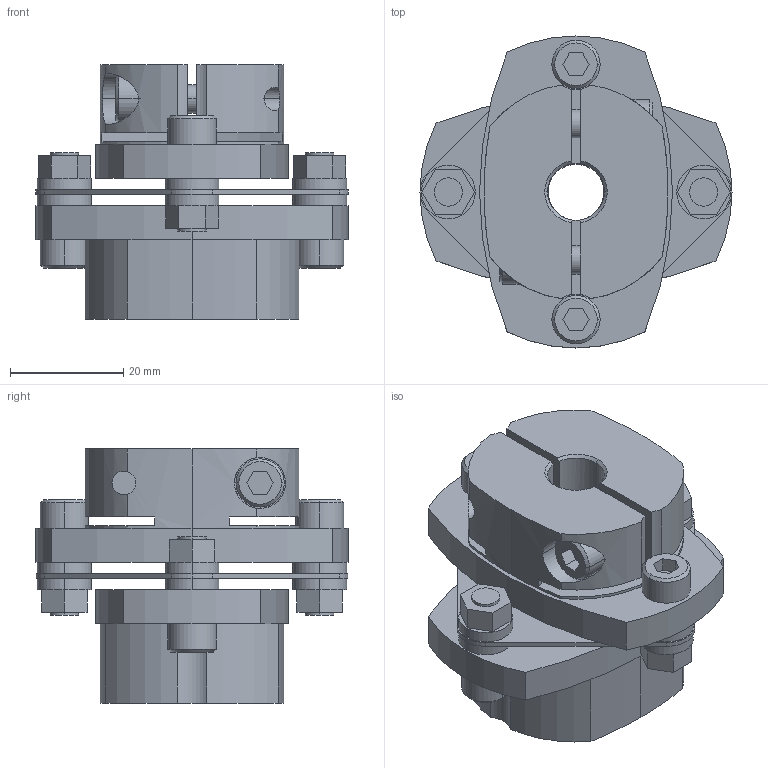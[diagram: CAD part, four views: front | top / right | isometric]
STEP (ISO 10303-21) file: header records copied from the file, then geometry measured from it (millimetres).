
FILE_DESCRIPTION((''),'2;1');
FILE_NAME('LCS-55M-11L亊10B.stp','2011-08-20T15:31:25',(''),(''),'AutoCAD STEP 2000i','AutoCAD 2000i',', , ');
FILE_SCHEMA(('CONFIG_CONTROL_DESIGN'));
Length unit declared in the file: millimetre
Products named in the file (6): LCS-55M-11L×10B; 忣兜1; LC55M-L011; LC55-B010-1; LC55-B010; LCS55-ITA
Assembly tree (6 placements, depth 2):
  LCS-55M-11L×10B
    忣兜1
    LC55M-L011  x2
    LC55-B010-1
    LC55-B010
    LCS55-ITA
Bounding box: 55 x 55 x 44.8 mm (x, y, z)
Volume: 46609.8 mm3; surface area: 19299 mm2
Topology: 1 solids, 1 shells, 240 faces, 608 edges, 400 vertices
Faces by surface type: plane 115, cylinder 104, cone 21
Entity records: 7727 total; most frequent: CARTESIAN_POINT 1547, DIRECTION 1320, ORIENTED_EDGE 1216, EDGE_CURVE 608, AXIS2_PLACEMENT_3D 487, VERTEX_POINT 400, VECTOR 346, LINE 346
